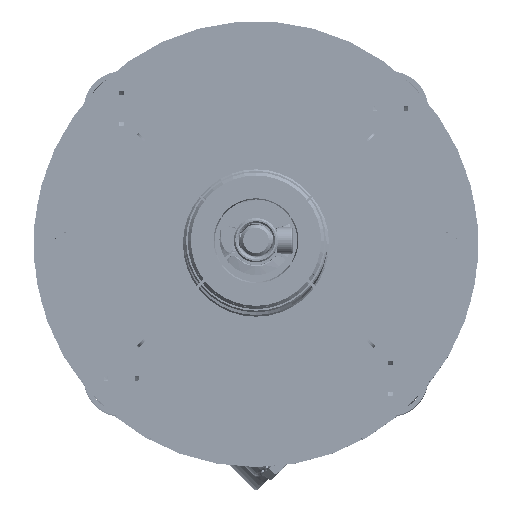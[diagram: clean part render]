
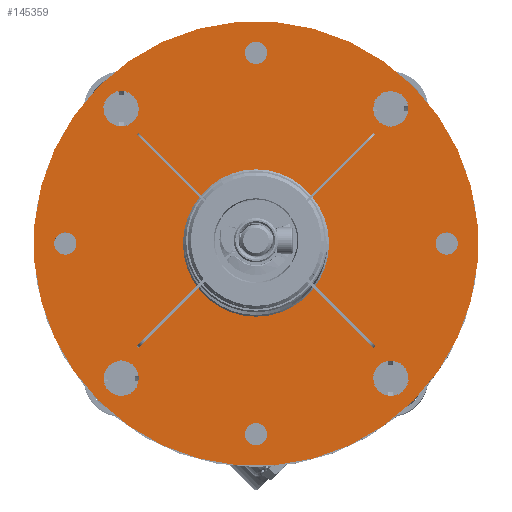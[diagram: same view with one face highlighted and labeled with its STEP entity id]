
A CAD part, top view. The second image highlights one B-rep face of the part: STEP entity #145359.
In plain terms, the highlighted planar face has unit normal (0, 0, 1) as drawn and (0, -1, 0) by its records, which use the part's own axes.
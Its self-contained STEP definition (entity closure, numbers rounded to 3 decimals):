
#11128=PLANE('',#160422);
#11787=FACE_BOUND('',#33575,.T.);
#11788=FACE_BOUND('',#33576,.T.);
#11789=FACE_BOUND('',#33577,.T.);
#11790=FACE_BOUND('',#33578,.T.);
#11791=FACE_BOUND('',#33579,.T.);
#11792=FACE_BOUND('',#33580,.T.);
#11793=FACE_BOUND('',#33581,.T.);
#11794=FACE_BOUND('',#33582,.T.);
#11795=FACE_BOUND('',#33583,.T.);
#17217=CIRCLE('',#160420,5.5);
#17219=CIRCLE('',#160423,70.);
#17220=CIRCLE('',#160424,5.5);
#17221=CIRCLE('',#160425,5.5);
#17222=CIRCLE('',#160426,22.5);
#17223=CIRCLE('',#160427,3.5);
#17224=CIRCLE('',#160428,3.5);
#17225=CIRCLE('',#160429,3.5);
#17226=CIRCLE('',#160430,3.5);
#17227=CIRCLE('',#160431,5.5);
#25259=FACE_OUTER_BOUND('',#33574,.T.);
#33574=EDGE_LOOP('',(#134939));
#33575=EDGE_LOOP('',(#134940));
#33576=EDGE_LOOP('',(#134941));
#33577=EDGE_LOOP('',(#134942));
#33578=EDGE_LOOP('',(#134943));
#33579=EDGE_LOOP('',(#134944));
#33580=EDGE_LOOP('',(#134945));
#33581=EDGE_LOOP('',(#134946));
#33582=EDGE_LOOP('',(#134947));
#33583=EDGE_LOOP('',(#134948));
#73906=VERTEX_POINT('',#274060);
#73908=VERTEX_POINT('',#274066);
#73909=VERTEX_POINT('',#274068);
#73910=VERTEX_POINT('',#274070);
#73911=VERTEX_POINT('',#274072);
#73912=VERTEX_POINT('',#274074);
#73913=VERTEX_POINT('',#274076);
#73914=VERTEX_POINT('',#274078);
#73915=VERTEX_POINT('',#274080);
#73916=VERTEX_POINT('',#274082);
#94284=EDGE_CURVE('',#73906,#73906,#17217,.T.);
#94287=EDGE_CURVE('',#73908,#73908,#17219,.T.);
#94288=EDGE_CURVE('',#73909,#73909,#17220,.T.);
#94289=EDGE_CURVE('',#73910,#73910,#17221,.T.);
#94290=EDGE_CURVE('',#73911,#73911,#17222,.T.);
#94291=EDGE_CURVE('',#73912,#73912,#17223,.T.);
#94292=EDGE_CURVE('',#73913,#73913,#17224,.T.);
#94293=EDGE_CURVE('',#73914,#73914,#17225,.T.);
#94294=EDGE_CURVE('',#73915,#73915,#17226,.T.);
#94295=EDGE_CURVE('',#73916,#73916,#17227,.T.);
#134939=ORIENTED_EDGE('',*,*,#94287,.F.);
#134940=ORIENTED_EDGE('',*,*,#94288,.F.);
#134941=ORIENTED_EDGE('',*,*,#94289,.F.);
#134942=ORIENTED_EDGE('',*,*,#94290,.T.);
#134943=ORIENTED_EDGE('',*,*,#94291,.T.);
#134944=ORIENTED_EDGE('',*,*,#94292,.T.);
#134945=ORIENTED_EDGE('',*,*,#94293,.T.);
#134946=ORIENTED_EDGE('',*,*,#94294,.T.);
#134947=ORIENTED_EDGE('',*,*,#94295,.F.);
#134948=ORIENTED_EDGE('',*,*,#94284,.F.);
#145359=ADVANCED_FACE('',(#25259,#11787,#11788,#11789,#11790,#11791,#11792,
#11793,#11794,#11795),#11128,.F.);
#160420=AXIS2_PLACEMENT_3D('',#274061,#198829,#198830);
#160422=AXIS2_PLACEMENT_3D('',#274065,#198834,#198835);
#160423=AXIS2_PLACEMENT_3D('',#274067,#198836,#198837);
#160424=AXIS2_PLACEMENT_3D('',#274069,#198838,#198839);
#160425=AXIS2_PLACEMENT_3D('',#274071,#198840,#198841);
#160426=AXIS2_PLACEMENT_3D('',#274073,#198842,#198843);
#160427=AXIS2_PLACEMENT_3D('',#274075,#198844,#198845);
#160428=AXIS2_PLACEMENT_3D('',#274077,#198846,#198847);
#160429=AXIS2_PLACEMENT_3D('',#274079,#198848,#198849);
#160430=AXIS2_PLACEMENT_3D('',#274081,#198850,#198851);
#160431=AXIS2_PLACEMENT_3D('',#274083,#198852,#198853);
#198829=DIRECTION('center_axis',(0.,-1.,0.));
#198830=DIRECTION('ref_axis',(1.,0.,0.));
#198834=DIRECTION('center_axis',(0.,1.,0.));
#198835=DIRECTION('ref_axis',(0.,0.,1.));
#198836=DIRECTION('center_axis',(0.,1.,0.));
#198837=DIRECTION('ref_axis',(-1.,0.,0.));
#198838=DIRECTION('center_axis',(0.,-1.,0.));
#198839=DIRECTION('ref_axis',(1.,0.,0.));
#198840=DIRECTION('center_axis',(0.,-1.,0.));
#198841=DIRECTION('ref_axis',(1.,0.,0.));
#198842=DIRECTION('center_axis',(0.,1.,0.));
#198843=DIRECTION('ref_axis',(1.,0.,0.));
#198844=DIRECTION('center_axis',(0.,1.,0.));
#198845=DIRECTION('ref_axis',(1.,0.,0.));
#198846=DIRECTION('center_axis',(0.,1.,0.));
#198847=DIRECTION('ref_axis',(1.,0.,0.));
#198848=DIRECTION('center_axis',(0.,1.,0.));
#198849=DIRECTION('ref_axis',(1.,0.,0.));
#198850=DIRECTION('center_axis',(0.,1.,0.));
#198851=DIRECTION('ref_axis',(1.,0.,0.));
#198852=DIRECTION('center_axis',(0.,-1.,0.));
#198853=DIRECTION('ref_axis',(1.,0.,0.));
#274060=CARTESIAN_POINT('',(-5.5,0.,-60.));
#274061=CARTESIAN_POINT('Origin',(0.,0.,-60.));
#274065=CARTESIAN_POINT('Origin',(0.,0.,0.));
#274066=CARTESIAN_POINT('',(70.,0.,0.));
#274067=CARTESIAN_POINT('Origin',(0.,0.,0.));
#274068=CARTESIAN_POINT('',(54.5,0.,0.));
#274069=CARTESIAN_POINT('Origin',(60.,0.,0.));
#274070=CARTESIAN_POINT('',(-65.5,0.,0.));
#274071=CARTESIAN_POINT('Origin',(-60.,0.,0.));
#274072=CARTESIAN_POINT('',(-22.5,0.,0.));
#274073=CARTESIAN_POINT('Origin',(0.,0.,0.));
#274074=CARTESIAN_POINT('',(38.926,0.,-42.426));
#274075=CARTESIAN_POINT('Origin',(42.426,0.,-42.426));
#274076=CARTESIAN_POINT('',(38.926,0.,42.426));
#274077=CARTESIAN_POINT('Origin',(42.426,0.,42.426));
#274078=CARTESIAN_POINT('',(-45.926,0.,42.426));
#274079=CARTESIAN_POINT('Origin',(-42.426,0.,42.426));
#274080=CARTESIAN_POINT('',(-45.926,0.,-42.426));
#274081=CARTESIAN_POINT('Origin',(-42.426,0.,-42.426));
#274082=CARTESIAN_POINT('',(-5.5,0.,60.));
#274083=CARTESIAN_POINT('Origin',(0.,0.,60.));
